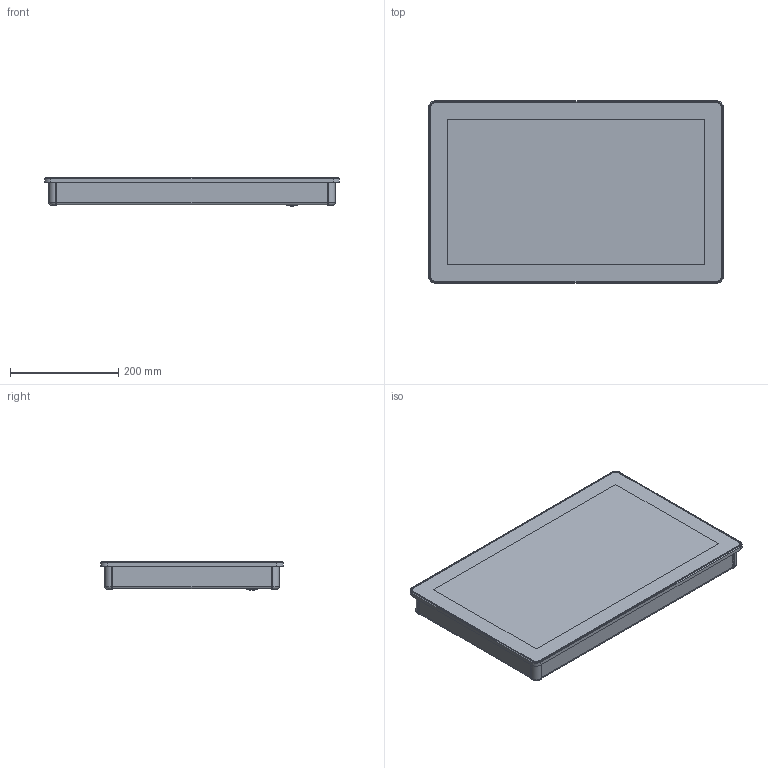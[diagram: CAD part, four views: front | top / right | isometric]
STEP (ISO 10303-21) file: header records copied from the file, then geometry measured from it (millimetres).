
FILE_DESCRIPTION(/* description */ (''),/* implementation_level */ '2;1');
FILE_NAME(/* name */ 'C:\SAPInventorWork\778-43989-00_EXTERN.stp',/* time_stamp */ '2024-07-01T07:58:20+02:00',/* author */ ('Aiple'),/* organization */ (''),/* preprocessor_version */ 'ST-DEVELOPER v18.1',/* originating_system */ 'Autodesk Inventor 2021',/* authorisation */ '');
FILE_SCHEMA (('AUTOMOTIVE_DESIGN { 1 0 10303 214 3 1 1 }'));
Products named in the file (1): 778-43989-00
Bounding box: 545.5 x 337 x 52.61 mm (x, y, z)
Volume: 7794008.7 mm3; surface area: 484515.6 mm2
Topology: 1 solids, 42 shells, 3303 faces, 8722 edges, 5705 vertices
Faces by surface type: plane 1645, cylinder 780, bspline 494, cone 373, torus 7, sphere 4
Full cylindrical faces by diameter (mm): 0.457 x1, 2.459 x8, 2.5 x2, 2.8 x2, 2.9 x2, 2.91 x4, 3 x12, 3.5 x18, 3.91 x1, 4 x3, 4.22 x8, 4.3 x8, 4.7 x2, 4.917 x4, 5 x3, 5.2 x1, 5.3 x2, 5.54 x8, 5.7 x14, 6 x14, 8.107 x4, 8.4 x14, 8.72 x4, 8.8 x4, 20 x1
Entity records: 115808 total; most frequent: CARTESIAN_POINT 34924, ORIENTED_EDGE 17440, DIRECTION 13474, EDGE_CURVE 8720, VERTEX_POINT 5705, LINE 5258, VECTOR 5258, AXIS2_PLACEMENT_3D 4108
